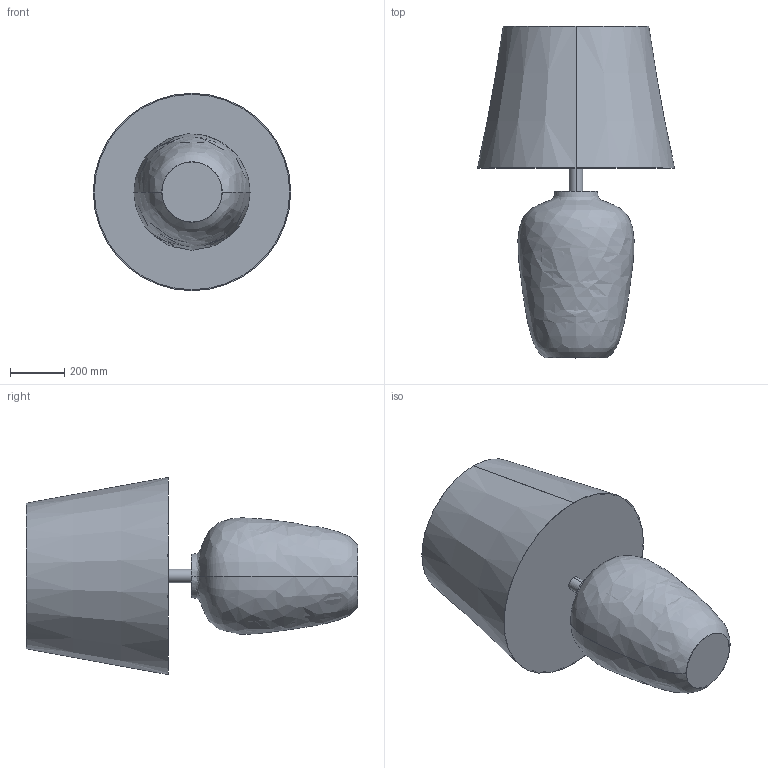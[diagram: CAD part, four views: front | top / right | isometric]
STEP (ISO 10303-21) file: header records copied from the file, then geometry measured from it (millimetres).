
FILE_DESCRIPTION (( 'STEP AP214' ), '1' );
FILE_NAME ('11_v1.STEP', '2016-10-07T09:04:15', ( 'Tripiodiy' ), ( '' ), 'SwSTEP 2.0', 'SolidWorks 2016', '' );
FILE_SCHEMA (( 'AUTOMOTIVE_DESIGN' ));
Length unit declared in the file: millimetre
Products named in the file (1): 11_v1
Bounding box: 730.11 x 1228.15 x 730.11 mm (x, y, z)
Volume: 6937360.4 mm3; surface area: 4629976.8 mm2
Topology: 1 solids, 1 shells, 20 faces, 38 edges, 24 vertices
Faces by surface type: cone 6, plane 6, bspline 4, cylinder 4
Entity records: 1376 total; most frequent: CARTESIAN_POINT 935, DIRECTION 92, ORIENTED_EDGE 76, AXIS2_PLACEMENT_3D 41, EDGE_CURVE 38, EDGE_LOOP 24, VERTEX_POINT 24, CIRCLE 24
